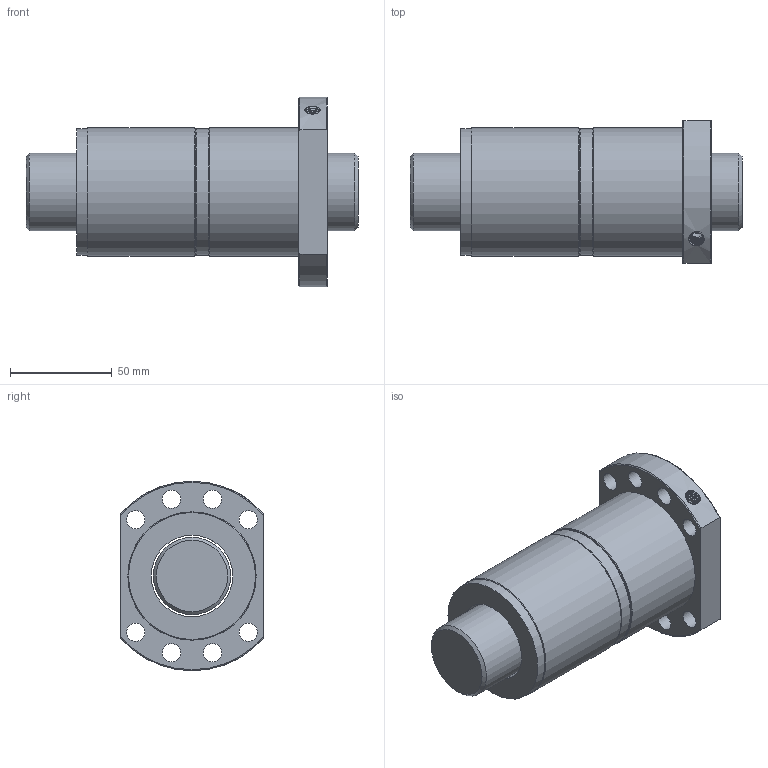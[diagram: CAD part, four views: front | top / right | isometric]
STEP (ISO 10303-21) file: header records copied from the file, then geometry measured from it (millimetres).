
FILE_DESCRIPTION(/* description */ ('Unknown','CAx-IF Rec.Pracs.---Representation and Presentation of Product Manufacturing Information (PMI)---4.0---2014-10-13','CAx-IF Rec.Pracs.---3D Tessellated Geometry---0.4---2014-09-14','2;1'),/* implementation_level */ '2;1');
FILE_NAME(/* name */ 'DFS04010',/* time_stamp */ '2020-12-08T11:59:37+08:00',/* author */ ('Unknown'),/* organization */ ('Unknown'),/* preprocessor_version */ 'ST-DEVELOPER v16.7',/* originating_system */ 'Solid Edge',/* authorisation */ 'Unknown');
FILE_SCHEMA (('AP242_MANAGED_MODEL_BASED_3D_ENGINEERING_MIM_LF { 1 0 10303 442 1 1 4 }'));
Length unit declared in the file: millimetre
Products named in the file (1): DFS04010
Bounding box: 163 x 70 x 93 mm (x, y, z)
Volume: 442574 mm3; surface area: 76522.4 mm2
Topology: 2 solids, 2 shells, 49 faces, 118 edges, 77 vertices
Faces by surface type: cylinder 22, plane 13, torus 9, cone 3, bspline 2
Full cylindrical faces by diameter (mm): 4 x1, 6.917 x1, 9 x8, 38 x1, 40 x1, 62.105 x1, 62.3 x2, 62.5 x1, 63 x2
Entity records: 3222 total; most frequent: CARTESIAN_POINT 2097, DIRECTION 220, ORIENTED_EDGE 174, AXIS2_PLACEMENT_3D 106, EDGE_LOOP 101, FACE_BOUND 101, EDGE_CURVE 87, VERTEX_POINT 72
